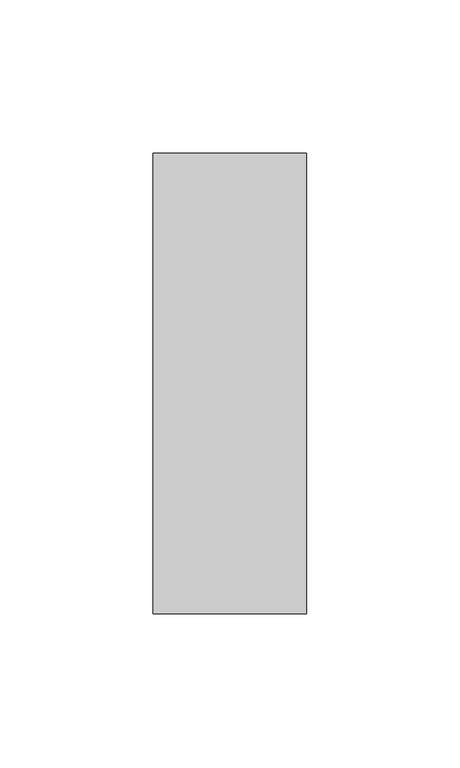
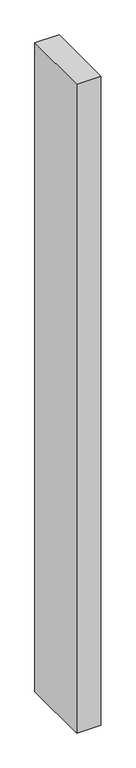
"""IFC4 building model written with IfcOpenShell, lengths in millimetres: member geometry, Прямоугольный импост : 50 x 150 мм."""

from ifc_helpers import new_model, si_unit, frame, origin, place, context, project, spatial, polyline, outline, extrude, source, transform, mapped, element, save


def member_9dc4e752(model_context):
    return source(origin(), model_context, "Body", "SweptSolid", [
        extrude(outline(polyline([(25.0, 75.0), (25.0, -75.0), (-25.0, -75.0), (-25.0, 75.0), (25.0, 75.0)])), frame((0.0, 0.0, -1422.9721359), z_axis=(0.0, 0.0, 1.0), x_axis=(1.0, 0.0, 0.0)), (0.0, 0.0, 1.0), 1422.9721359),
    ])


if __name__ == "__main__":
    model = new_model("IFC4")
    model_context = context("Model", 3, world=origin())
    ifc_project = project(units=[si_unit("LENGTHUNIT", "METRE", prefix="MILLI")], contexts=[model_context])
    site = spatial("IfcSite", under=ifc_project)
    building = spatial("IfcBuilding", under=site)
    placement = place(None, origin())
    member_shape = member_9dc4e752(model_context)
    element("IfcMember", 1, ObjectType="Прямоугольный импост : 50 x 150 мм", at=placement, inside=building, context=model_context, shape_type="MappedRepresentation", body=[
        mapped(member_shape, transform((0.0, 0.0, 0.0), x_axis=(1.0, 0.0, 0.0), y_axis=(0.0, 1.0, 0.0), z_axis=(0.0, 0.0, 1.0))),
    ])
    save(model, "model.ifc")
